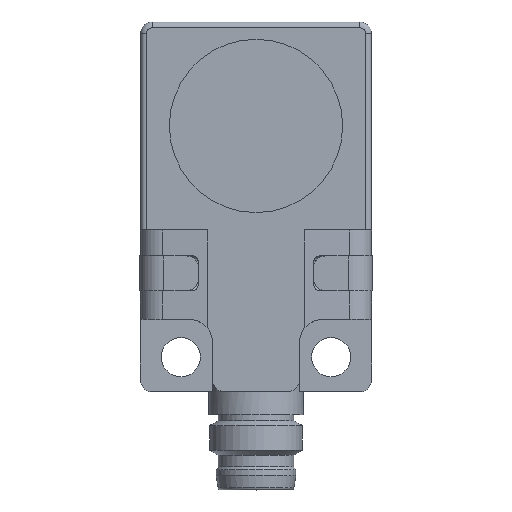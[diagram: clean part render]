
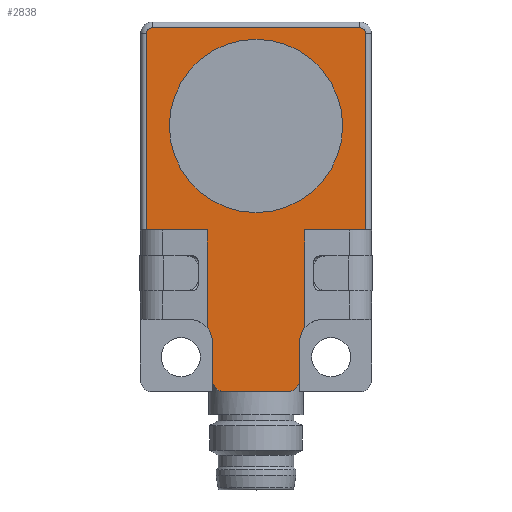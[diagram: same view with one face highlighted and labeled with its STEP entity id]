
A CAD part, top view. The second image highlights one B-rep face of the part: STEP entity #2838.
In plain terms, the highlighted planar face has unit normal (0, 0, 1).
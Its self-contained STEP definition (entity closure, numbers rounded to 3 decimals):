
#2510=CARTESIAN_POINT('',(-15.25,13.0,3.));
#2511=VERTEX_POINT('',#2510);
#2519=CARTESIAN_POINT('',(-15.25,30.,3.));
#2520=VERTEX_POINT('',#2519);
#2521=CARTESIAN_POINT('',(-15.25,13.0,3.));
#2522=DIRECTION('',(0.0,1.0,0.0));
#2523=VECTOR('',#2522,17.0);
#2524=LINE('',#2521,#2523);
#2525=EDGE_CURVE('',#2511,#2520,#2524,.T.);
#2543=CARTESIAN_POINT('',(-14.75,30.5,3.));
#2544=VERTEX_POINT('',#2543);
#2562=CARTESIAN_POINT('',(-14.75,30.,3.));
#2563=DIRECTION('',(0.0,0.0,-1.));
#2564=DIRECTION('',(-0.707,0.707,0.0));
#2565=AXIS2_PLACEMENT_3D('',#2562,#2563,#2564);
#2566=CIRCLE('',#2565,0.5);
#2567=EDGE_CURVE('',#2520,#2544,#2566,.T.);
#2577=CARTESIAN_POINT('',(3.25,30.5,3.));
#2578=VERTEX_POINT('',#2577);
#2595=CARTESIAN_POINT('',(-14.75,30.5,3.));
#2596=DIRECTION('',(1.0,0.0,0.0));
#2597=VECTOR('',#2596,18.0);
#2598=LINE('',#2595,#2597);
#2599=EDGE_CURVE('',#2544,#2578,#2598,.T.);
#2657=CARTESIAN_POINT('',(3.75,30.0,3.));
#2658=VERTEX_POINT('',#2657);
#2674=CARTESIAN_POINT('',(3.25,30.0,3.));
#2675=DIRECTION('',(0.0,0.0,-1.0));
#2676=DIRECTION('',(0.707,0.707,0.0));
#2677=AXIS2_PLACEMENT_3D('',#2674,#2675,#2676);
#2678=CIRCLE('',#2677,0.5);
#2679=EDGE_CURVE('',#2578,#2658,#2678,.T.);
#2689=CARTESIAN_POINT('',(3.75,13.,3.));
#2690=VERTEX_POINT('',#2689);
#2700=CARTESIAN_POINT('',(3.75,30.0,3.));
#2701=DIRECTION('',(0.0,-1.0,0.0));
#2702=VECTOR('',#2701,17.);
#2703=LINE('',#2700,#2702);
#2704=EDGE_CURVE('',#2658,#2690,#2703,.T.);
#2709=CARTESIAN_POINT('',(-5.75,15.0,3.));
#2710=DIRECTION('',(0.0,0.0,1.0));
#2711=DIRECTION('',(1.0,0.0,0.0));
#2712=AXIS2_PLACEMENT_3D('',#2709,#2710,#2711);
#2713=PLANE('',#2712);
#2714=ORIENTED_EDGE('',*,*,#2704,.F.);
#2715=ORIENTED_EDGE('',*,*,#2679,.F.);
#2716=ORIENTED_EDGE('',*,*,#2599,.F.);
#2717=ORIENTED_EDGE('',*,*,#2567,.F.);
#2718=ORIENTED_EDGE('',*,*,#2525,.F.);
#2719=CARTESIAN_POINT('',(-9.986,13.,3.));
#2720=VERTEX_POINT('',#2719);
#2721=CARTESIAN_POINT('',(-15.25,13.0,3.));
#2722=DIRECTION('',(1.0,0.0,0.0));
#2723=VECTOR('',#2722,5.264);
#2724=LINE('',#2721,#2723);
#2725=EDGE_CURVE('',#2511,#2720,#2724,.T.);
#2726=ORIENTED_EDGE('',*,*,#2725,.T.);
#2727=CARTESIAN_POINT('',(-9.986,4.557,3.));
#2728=VERTEX_POINT('',#2727);
#2729=CARTESIAN_POINT('',(-9.986,13.,3.));
#2730=DIRECTION('',(0.0,-1.0,0.0));
#2731=VECTOR('',#2730,8.443);
#2732=LINE('',#2729,#2731);
#2733=EDGE_CURVE('',#2720,#2728,#2732,.T.);
#2734=ORIENTED_EDGE('',*,*,#2733,.T.);
#2735=CARTESIAN_POINT('',(-9.5,3.25,3.));
#2736=VERTEX_POINT('',#2735);
#2737=CARTESIAN_POINT('',(-11.5,3.25,3.));
#2738=DIRECTION('',(0.0,0.0,-1.0));
#2739=DIRECTION('',(-1.0,0.0,0.0));
#2740=AXIS2_PLACEMENT_3D('',#2737,#2738,#2739);
#2741=CIRCLE('',#2740,2.0);
#2742=EDGE_CURVE('',#2728,#2736,#2741,.T.);
#2743=ORIENTED_EDGE('',*,*,#2742,.T.);
#2744=CARTESIAN_POINT('',(-9.5,0.0,3.));
#2745=VERTEX_POINT('',#2744);
#2746=CARTESIAN_POINT('',(-9.5,3.25,3.));
#2747=DIRECTION('',(0.0,-1.0,0.0));
#2748=VECTOR('',#2747,3.25);
#2749=LINE('',#2746,#2748);
#2750=EDGE_CURVE('',#2736,#2745,#2749,.T.);
#2751=ORIENTED_EDGE('',*,*,#2750,.T.);
#2752=CARTESIAN_POINT('',(-8.5,-1.,3.));
#2753=VERTEX_POINT('',#2752);
#2754=CARTESIAN_POINT('',(-8.5,0.0,3.));
#2755=DIRECTION('',(0.0,0.0,-1.));
#2756=DIRECTION('',(-0.707,-0.707,0.0));
#2757=AXIS2_PLACEMENT_3D('',#2754,#2755,#2756);
#2758=CIRCLE('',#2757,1.);
#2759=EDGE_CURVE('',#2753,#2745,#2758,.T.);
#2760=ORIENTED_EDGE('',*,*,#2759,.F.);
#2761=CARTESIAN_POINT('',(-7.885,-1.,3.));
#2762=VERTEX_POINT('',#2761);
#2763=CARTESIAN_POINT('',(-7.885,-1.,3.));
#2764=DIRECTION('',(-1.0,0.0,0.0));
#2765=VECTOR('',#2764,0.615);
#2766=LINE('',#2763,#2765);
#2767=EDGE_CURVE('',#2762,#2753,#2766,.T.);
#2768=ORIENTED_EDGE('',*,*,#2767,.F.);
#2769=CARTESIAN_POINT('',(-3.615,-1.,3.));
#2770=VERTEX_POINT('',#2769);
#2771=CARTESIAN_POINT('',(-3.615,-1.,3.));
#2772=DIRECTION('',(-1.0,0.0,0.0));
#2773=VECTOR('',#2772,4.271);
#2774=LINE('',#2771,#2773);
#2775=EDGE_CURVE('',#2770,#2762,#2774,.T.);
#2776=ORIENTED_EDGE('',*,*,#2775,.F.);
#2777=CARTESIAN_POINT('',(-3.,-1.,3.));
#2778=VERTEX_POINT('',#2777);
#2779=CARTESIAN_POINT('',(-3.,-1.,3.));
#2780=DIRECTION('',(-1.0,0.0,0.0));
#2781=VECTOR('',#2780,0.615);
#2782=LINE('',#2779,#2781);
#2783=EDGE_CURVE('',#2778,#2770,#2782,.T.);
#2784=ORIENTED_EDGE('',*,*,#2783,.F.);
#2785=CARTESIAN_POINT('',(-2.,0.0,3.));
#2786=VERTEX_POINT('',#2785);
#2787=CARTESIAN_POINT('',(-3.,0.0,3.));
#2788=DIRECTION('',(0.0,0.0,-1.0));
#2789=DIRECTION('',(0.707,-0.707,0.0));
#2790=AXIS2_PLACEMENT_3D('',#2787,#2788,#2789);
#2791=CIRCLE('',#2790,1.0);
#2792=EDGE_CURVE('',#2786,#2778,#2791,.T.);
#2793=ORIENTED_EDGE('',*,*,#2792,.F.);
#2794=CARTESIAN_POINT('',(-2.,3.25,3.));
#2795=VERTEX_POINT('',#2794);
#2796=CARTESIAN_POINT('',(-2.,0.0,3.));
#2797=DIRECTION('',(0.0,1.0,0.0));
#2798=VECTOR('',#2797,3.25);
#2799=LINE('',#2796,#2798);
#2800=EDGE_CURVE('',#2786,#2795,#2799,.T.);
#2801=ORIENTED_EDGE('',*,*,#2800,.T.);
#2802=CARTESIAN_POINT('',(-1.514,4.557,3.));
#2803=VERTEX_POINT('',#2802);
#2804=CARTESIAN_POINT('',(0.,3.25,3.));
#2805=DIRECTION('',(0.0,0.0,-1.0));
#2806=DIRECTION('',(0.0,-1.0,0.0));
#2807=AXIS2_PLACEMENT_3D('',#2804,#2805,#2806);
#2808=CIRCLE('',#2807,2.0);
#2809=EDGE_CURVE('',#2795,#2803,#2808,.T.);
#2810=ORIENTED_EDGE('',*,*,#2809,.T.);
#2811=CARTESIAN_POINT('',(-1.514,13.,3.));
#2812=VERTEX_POINT('',#2811);
#2813=CARTESIAN_POINT('',(-1.514,4.557,3.));
#2814=DIRECTION('',(0.0,1.0,0.0));
#2815=VECTOR('',#2814,8.443);
#2816=LINE('',#2813,#2815);
#2817=EDGE_CURVE('',#2803,#2812,#2816,.T.);
#2818=ORIENTED_EDGE('',*,*,#2817,.T.);
#2819=CARTESIAN_POINT('',(-1.514,13.,3.));
#2820=DIRECTION('',(1.0,0.0,0.0));
#2821=VECTOR('',#2820,5.264);
#2822=LINE('',#2819,#2821);
#2823=EDGE_CURVE('',#2812,#2690,#2822,.T.);
#2824=ORIENTED_EDGE('',*,*,#2823,.T.);
#2825=EDGE_LOOP('',(#2714,#2715,#2716,#2717,#2718,#2726,#2734,#2743,#2751,#2760,#2768,#2776,#2784,#2793,#2801,#2810,#2818,#2824));
#2826=FACE_OUTER_BOUND('',#2825,.T.);
#2827=CARTESIAN_POINT('',(1.75,22.0,3.));
#2828=VERTEX_POINT('',#2827);
#2829=CARTESIAN_POINT('',(-5.75,22.0,3.));
#2830=DIRECTION('',(0.0,0.0,-1.0));
#2831=DIRECTION('',(-1.0,0.0,0.0));
#2832=AXIS2_PLACEMENT_3D('',#2829,#2830,#2831);
#2833=CIRCLE('',#2832,7.5);
#2834=EDGE_CURVE('',#2828,#2828,#2833,.T.);
#2835=ORIENTED_EDGE('',*,*,#2834,.T.);
#2836=EDGE_LOOP('',(#2835));
#2837=FACE_BOUND('',#2836,.T.);
#2838=ADVANCED_FACE('',(#2826,#2837),#2713,.T.);
